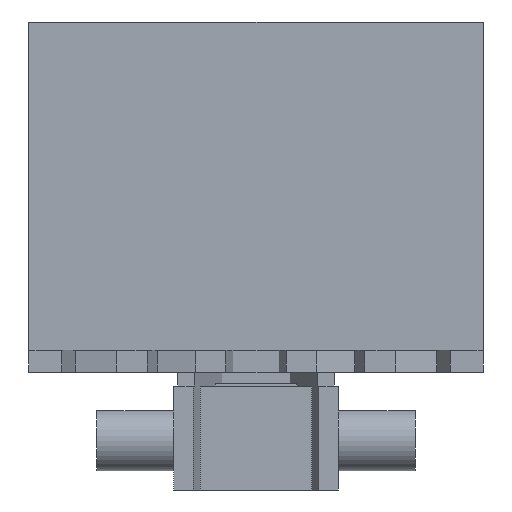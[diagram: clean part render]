
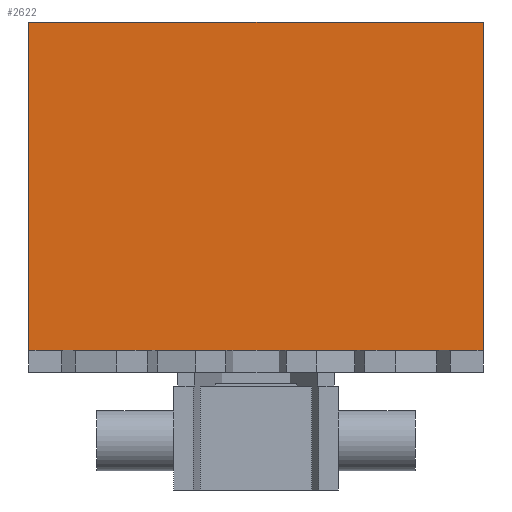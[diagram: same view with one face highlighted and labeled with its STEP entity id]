
A CAD part, left-side view. The second image highlights one B-rep face of the part: STEP entity #2622.
In plain terms, the highlighted planar face has unit normal (-1, 0, 0).
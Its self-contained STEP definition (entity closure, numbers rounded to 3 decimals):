
#49 = CARTESIAN_POINT ( 'NONE',  ( -9.252, -33.013, 42.5 ) ) ;
#132 = CARTESIAN_POINT ( 'NONE',  ( -9.252, 41.5, 102.5 ) ) ;
#146 = LINE ( 'NONE', #203, #200 ) ;
#150 = DIRECTION ( 'NONE',  ( 0., 1., 0. ) ) ;
#200 = VECTOR ( 'NONE', #150, 1000. ) ;
#203 = CARTESIAN_POINT ( 'NONE',  ( -9.252, -41.5, 102.5 ) ) ;
#205 = CARTESIAN_POINT ( 'NONE',  ( -9.252, 41.5, 42.5 ) ) ;
#223 = CARTESIAN_POINT ( 'NONE',  ( -9.252, -41.5, 102.5 ) ) ;
#225 = CARTESIAN_POINT ( 'NONE',  ( -9.252, -33.052, 42.5 ) ) ;
#239 = VECTOR ( 'NONE', #255, 1000. ) ;
#252 = LINE ( 'NONE', #256, #239 ) ;
#255 = DIRECTION ( 'NONE',  ( 0., 0., -1. ) ) ;
#256 = CARTESIAN_POINT ( 'NONE',  ( -9.252, 41.5, 42.5 ) ) ;
#326 = VECTOR ( 'NONE', #365, 1000. ) ;
#365 = DIRECTION ( 'NONE',  ( 0., 0., 1. ) ) ;
#490 = DIRECTION ( 'NONE',  ( 0., -1., 0. ) ) ;
#491 = VECTOR ( 'NONE', #490, 1000. ) ;
#492 = CARTESIAN_POINT ( 'NONE',  ( -9.252, -41.5, 42.5 ) ) ;
#497 = LINE ( 'NONE', #492, #491 ) ;
#542 = CARTESIAN_POINT ( 'NONE',  ( -9.252, -41.5, 42.5 ) ) ;
#547 = FACE_OUTER_BOUND ( 'NONE', #2638, .T. ) ;
#552 = CARTESIAN_POINT ( 'NONE',  ( -9.252, -41.5, 42.5 ) ) ;
#553 = LINE ( 'NONE', #552, #573 ) ;
#570 = LINE ( 'NONE', #542, #602 ) ;
#572 = DIRECTION ( 'NONE',  ( 0., -1., 0. ) ) ;
#573 = VECTOR ( 'NONE', #572, 1000. ) ;
#597 = DIRECTION ( 'NONE',  ( 0., -1., 0. ) ) ;
#602 = VECTOR ( 'NONE', #597, 1000. ) ;
#671 = AXIS2_PLACEMENT_3D ( 'NONE', #700, #679, #678 ) ;
#678 = DIRECTION ( 'NONE',  ( 0., -1., 0. ) ) ;
#679 = DIRECTION ( 'NONE',  ( -1., 0., 0. ) ) ;
#686 = PLANE ( 'NONE',  #671 ) ;
#700 = CARTESIAN_POINT ( 'NONE',  ( -9.252, -41.5, 42.5 ) ) ;
#702 = CARTESIAN_POINT ( 'NONE',  ( -9.252, -41.5, 42.5 ) ) ;
#703 = LINE ( 'NONE', #702, #326 ) ;
#704 = CARTESIAN_POINT ( 'NONE',  ( -9.252, -41.5, 42.5 ) ) ;
#711 = VECTOR ( 'NONE', #824, 1000. ) ;
#751 = CARTESIAN_POINT ( 'NONE',  ( -9.252, -41.5, 42.5 ) ) ;
#752 = LINE ( 'NONE', #751, #711 ) ;
#824 = DIRECTION ( 'NONE',  ( 0., -1., 0. ) ) ;
#941 = CARTESIAN_POINT ( 'NONE',  ( -9.252, -41.5, 42.5 ) ) ;
#942 = LINE ( 'NONE', #941, #951 ) ;
#950 = DIRECTION ( 'NONE',  ( 0., -1., 0. ) ) ;
#951 = VECTOR ( 'NONE', #950, 1000. ) ;
#1510 = CARTESIAN_POINT ( 'NONE',  ( -9.252, 33.052, 42.5 ) ) ;
#1907 = VERTEX_POINT ( 'NONE', #1510 ) ;
#1954 = VERTEX_POINT ( 'NONE', #3141 ) ;
#2138 = VERTEX_POINT ( 'NONE', #49 ) ;
#2194 = VERTEX_POINT ( 'NONE', #132 ) ;
#2244 = EDGE_CURVE ( 'NONE', #2296, #2194, #146, .T. ) ;
#2290 = VERTEX_POINT ( 'NONE', #205 ) ;
#2296 = VERTEX_POINT ( 'NONE', #223 ) ;
#2303 = VERTEX_POINT ( 'NONE', #225 ) ;
#2321 = EDGE_CURVE ( 'NONE', #2194, #2290, #252, .T. ) ;
#2428 = EDGE_CURVE ( 'NONE', #2290, #1907, #497, .T. ) ;
#2446 = EDGE_CURVE ( 'NONE', #1907, #1954, #570, .T. ) ;
#2471 = EDGE_CURVE ( 'NONE', #1954, #2138, #553, .T. ) ;
#2589 = EDGE_CURVE ( 'NONE', #2601, #2296, #703, .T. ) ;
#2601 = VERTEX_POINT ( 'NONE', #704 ) ;
#2621 = ORIENTED_EDGE ( 'NONE', *, *, #2446, .T. ) ;
#2622 = ADVANCED_FACE ( 'NONE', ( #547 ), #686, .T. ) ;
#2623 = ORIENTED_EDGE ( 'NONE', *, *, #2321, .T. ) ;
#2624 = ORIENTED_EDGE ( 'NONE', *, *, #2428, .T. ) ;
#2625 = ORIENTED_EDGE ( 'NONE', *, *, #2471, .T. ) ;
#2634 = ORIENTED_EDGE ( 'NONE', *, *, #2795, .T. ) ;
#2637 = ORIENTED_EDGE ( 'NONE', *, *, #2589, .T. ) ;
#2638 = EDGE_LOOP ( 'NONE', ( #2634, #2637, #2676, #2623, #2624, #2621, #2625, #2675 ) ) ;
#2675 = ORIENTED_EDGE ( 'NONE', *, *, #2747, .T. ) ;
#2676 = ORIENTED_EDGE ( 'NONE', *, *, #2244, .T. ) ;
#2747 = EDGE_CURVE ( 'NONE', #2138, #2303, #942, .T. ) ;
#2795 = EDGE_CURVE ( 'NONE', #2303, #2601, #752, .T. ) ;
#3141 = CARTESIAN_POINT ( 'NONE',  ( -9.252, 33.013, 42.5 ) ) ;
